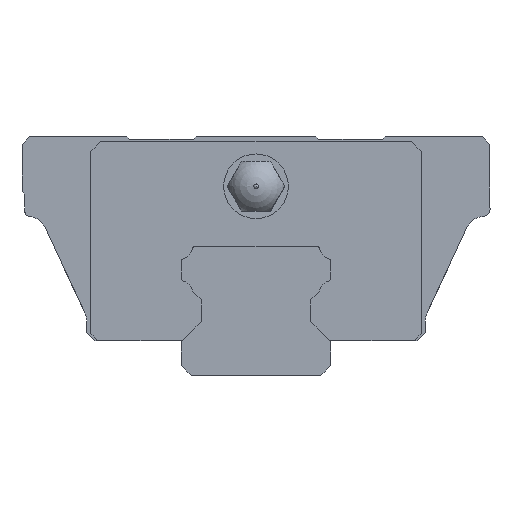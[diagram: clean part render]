
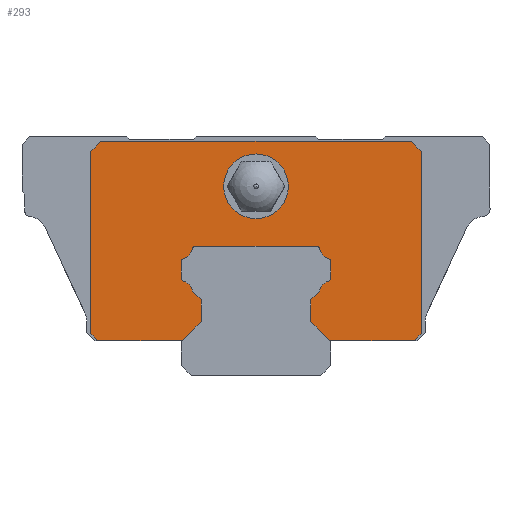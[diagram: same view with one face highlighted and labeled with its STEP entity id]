
A CAD part, front view. The second image highlights one B-rep face of the part: STEP entity #293.
In plain terms, the highlighted planar face has unit normal (0, -1, 0).
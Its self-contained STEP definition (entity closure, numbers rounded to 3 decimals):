
#203=FACE_BOUND('',#708,.T.);
#204=FACE_BOUND('',#709,.T.);
#293=ADVANCED_FACE('',(#203,#204),#464,.T.);
#464=PLANE('',#3262);
#708=EDGE_LOOP('',(#1091,#1092,#1093,#1094,#1095,#1096,#1097,#1098,#1099,#1100,#1101,#1102,#1103,#1104,#1105,#1106,#1107,#1108,#1109,#1110,#1111,#1112,#1113,#1114,#1115,#1116,#1117,#1118));
#709=EDGE_LOOP('',(#1119));
#920=CIRCLE('',#3250,3.25);
#921=CIRCLE('',#3252,1.4);
#922=CIRCLE('',#3253,0.3);
#923=CIRCLE('',#3254,0.3);
#924=CIRCLE('',#3255,1.4);
#925=CIRCLE('',#3256,0.3);
#926=CIRCLE('',#3257,0.3);
#927=CIRCLE('',#3258,1.4);
#928=CIRCLE('',#3259,0.3);
#929=CIRCLE('',#3260,0.3);
#930=CIRCLE('',#3261,1.4);
#1091=ORIENTED_EDGE('',*,*,#2269,.F.);
#1092=ORIENTED_EDGE('',*,*,#2270,.F.);
#1093=ORIENTED_EDGE('',*,*,#2271,.F.);
#1094=ORIENTED_EDGE('',*,*,#2272,.F.);
#1095=ORIENTED_EDGE('',*,*,#2273,.F.);
#1096=ORIENTED_EDGE('',*,*,#2274,.F.);
#1097=ORIENTED_EDGE('',*,*,#2275,.F.);
#1098=ORIENTED_EDGE('',*,*,#2276,.F.);
#1099=ORIENTED_EDGE('',*,*,#2277,.F.);
#1100=ORIENTED_EDGE('',*,*,#2278,.F.);
#1101=ORIENTED_EDGE('',*,*,#2279,.F.);
#1102=ORIENTED_EDGE('',*,*,#2280,.F.);
#1103=ORIENTED_EDGE('',*,*,#2281,.F.);
#1104=ORIENTED_EDGE('',*,*,#2282,.F.);
#1105=ORIENTED_EDGE('',*,*,#2283,.F.);
#1106=ORIENTED_EDGE('',*,*,#2284,.F.);
#1107=ORIENTED_EDGE('',*,*,#2285,.F.);
#1108=ORIENTED_EDGE('',*,*,#2286,.F.);
#1109=ORIENTED_EDGE('',*,*,#2287,.F.);
#1110=ORIENTED_EDGE('',*,*,#2256,.T.);
#1111=ORIENTED_EDGE('',*,*,#2235,.T.);
#1112=ORIENTED_EDGE('',*,*,#2240,.T.);
#1113=ORIENTED_EDGE('',*,*,#2243,.T.);
#1114=ORIENTED_EDGE('',*,*,#2246,.T.);
#1115=ORIENTED_EDGE('',*,*,#2249,.T.);
#1116=ORIENTED_EDGE('',*,*,#2253,.T.);
#1117=ORIENTED_EDGE('',*,*,#2255,.T.);
#1118=ORIENTED_EDGE('',*,*,#2232,.T.);
#1119=ORIENTED_EDGE('',*,*,#2268,.F.);
#1915=VERTEX_POINT('',#4448);
#1926=VERTEX_POINT('',#4469);
#1929=VERTEX_POINT('',#4476);
#1930=VERTEX_POINT('',#4478);
#1933=VERTEX_POINT('',#4486);
#1935=VERTEX_POINT('',#4492);
#1937=VERTEX_POINT('',#4498);
#1939=VERTEX_POINT('',#4504);
#1942=VERTEX_POINT('',#4512);
#1943=VERTEX_POINT('',#4519);
#1954=VERTEX_POINT('',#4543);
#1955=VERTEX_POINT('',#4546);
#1956=VERTEX_POINT('',#4548);
#1957=VERTEX_POINT('',#4550);
#1958=VERTEX_POINT('',#4552);
#1959=VERTEX_POINT('',#4554);
#1960=VERTEX_POINT('',#4556);
#1961=VERTEX_POINT('',#4558);
#1962=VERTEX_POINT('',#4560);
#1963=VERTEX_POINT('',#4562);
#1964=VERTEX_POINT('',#4564);
#1965=VERTEX_POINT('',#4566);
#1966=VERTEX_POINT('',#4568);
#1967=VERTEX_POINT('',#4570);
#1968=VERTEX_POINT('',#4572);
#1969=VERTEX_POINT('',#4574);
#1970=VERTEX_POINT('',#4576);
#1971=VERTEX_POINT('',#4578);
#1972=VERTEX_POINT('',#4580);
#2232=EDGE_CURVE('',#1915,#1926,#2670,.T.);
#2235=EDGE_CURVE('',#1930,#1929,#2673,.T.);
#2240=EDGE_CURVE('',#1929,#1933,#2677,.T.);
#2243=EDGE_CURVE('',#1933,#1935,#2680,.T.);
#2246=EDGE_CURVE('',#1935,#1937,#2683,.T.);
#2249=EDGE_CURVE('',#1937,#1939,#2686,.T.);
#2253=EDGE_CURVE('',#1939,#1942,#2689,.T.);
#2255=EDGE_CURVE('',#1942,#1915,#2691,.T.);
#2256=EDGE_CURVE('',#1943,#1930,#2692,.T.);
#2268=EDGE_CURVE('',#1954,#1954,#920,.T.);
#2269=EDGE_CURVE('',#1955,#1926,#2701,.T.);
#2270=EDGE_CURVE('',#1956,#1955,#2702,.T.);
#2271=EDGE_CURVE('',#1957,#1956,#2703,.T.);
#2272=EDGE_CURVE('',#1958,#1957,#921,.T.);
#2273=EDGE_CURVE('',#1959,#1958,#922,.T.);
#2274=EDGE_CURVE('',#1960,#1959,#2704,.T.);
#2275=EDGE_CURVE('',#1961,#1960,#923,.T.);
#2276=EDGE_CURVE('',#1962,#1961,#924,.T.);
#2277=EDGE_CURVE('',#1963,#1962,#925,.T.);
#2278=EDGE_CURVE('',#1964,#1963,#2705,.T.);
#2279=EDGE_CURVE('',#1965,#1964,#926,.T.);
#2280=EDGE_CURVE('',#1966,#1965,#927,.T.);
#2281=EDGE_CURVE('',#1967,#1966,#928,.T.);
#2282=EDGE_CURVE('',#1968,#1967,#2706,.T.);
#2283=EDGE_CURVE('',#1969,#1968,#929,.T.);
#2284=EDGE_CURVE('',#1970,#1969,#930,.T.);
#2285=EDGE_CURVE('',#1971,#1970,#2707,.T.);
#2286=EDGE_CURVE('',#1972,#1971,#2708,.T.);
#2287=EDGE_CURVE('',#1943,#1972,#2709,.T.);
#2670=LINE('',#4470,#2956);
#2673=LINE('',#4477,#2959);
#2677=LINE('',#4487,#2963);
#2680=LINE('',#4493,#2966);
#2683=LINE('',#4499,#2969);
#2686=LINE('',#4505,#2972);
#2689=LINE('',#4513,#2975);
#2691=LINE('',#4516,#2977);
#2692=LINE('',#4518,#2978);
#2701=LINE('',#4545,#2987);
#2702=LINE('',#4547,#2988);
#2703=LINE('',#4549,#2989);
#2704=LINE('',#4555,#2990);
#2705=LINE('',#4563,#2991);
#2706=LINE('',#4571,#2992);
#2707=LINE('',#4577,#2993);
#2708=LINE('',#4579,#2994);
#2709=LINE('',#4581,#2995);
#2956=VECTOR('',#3557,1.);
#2959=VECTOR('',#3562,1.);
#2963=VECTOR('',#3570,1.);
#2966=VECTOR('',#3575,1.);
#2969=VECTOR('',#3580,1.);
#2972=VECTOR('',#3585,1.);
#2975=VECTOR('',#3592,1.);
#2977=VECTOR('',#3596,1.);
#2978=VECTOR('',#3599,1.);
#2987=VECTOR('',#3620,1.);
#2988=VECTOR('',#3621,1.);
#2989=VECTOR('',#3622,1.);
#2990=VECTOR('',#3627,1.);
#2991=VECTOR('',#3634,1.);
#2992=VECTOR('',#3641,1.);
#2993=VECTOR('',#3646,1.);
#2994=VECTOR('',#3647,1.);
#2995=VECTOR('',#3648,1.);
#3250=AXIS2_PLACEMENT_3D('',#4542,#3616,#3617);
#3252=AXIS2_PLACEMENT_3D('',#4551,#3623,#3624);
#3253=AXIS2_PLACEMENT_3D('',#4553,#3625,#3626);
#3254=AXIS2_PLACEMENT_3D('',#4557,#3628,#3629);
#3255=AXIS2_PLACEMENT_3D('',#4559,#3630,#3631);
#3256=AXIS2_PLACEMENT_3D('',#4561,#3632,#3633);
#3257=AXIS2_PLACEMENT_3D('',#4565,#3635,#3636);
#3258=AXIS2_PLACEMENT_3D('',#4567,#3637,#3638);
#3259=AXIS2_PLACEMENT_3D('',#4569,#3639,#3640);
#3260=AXIS2_PLACEMENT_3D('',#4573,#3642,#3643);
#3261=AXIS2_PLACEMENT_3D('',#4575,#3644,#3645);
#3262=AXIS2_PLACEMENT_3D('',#4582,#3649,#3650);
#3557=DIRECTION('',(1.,0.,0.));
#3562=DIRECTION('',(0.707,0.,0.707));
#3570=DIRECTION('',(0.,0.,1.));
#3575=DIRECTION('',(-0.707,0.,0.707));
#3580=DIRECTION('',(-1.,0.,0.));
#3585=DIRECTION('',(-0.707,0.,-0.707));
#3592=DIRECTION('',(0.,0.,-1.));
#3596=DIRECTION('',(0.707,0.,-0.707));
#3599=DIRECTION('',(1.,0.,0.));
#3616=DIRECTION('',(0.,-1.,0.));
#3617=DIRECTION('',(1.,0.,0.));
#3620=DIRECTION('',(-0.707,0.,-0.707));
#3621=DIRECTION('',(0.,0.,-1.));
#3622=DIRECTION('',(0.707,0.,-0.707));
#3623=DIRECTION('',(0.,1.,0.));
#3624=DIRECTION('',(0.,0.,-1.));
#3625=DIRECTION('',(0.,-1.,0.));
#3626=DIRECTION('',(0.,0.,-1.));
#3627=DIRECTION('',(0.,0.,-1.));
#3628=DIRECTION('',(0.,-1.,0.));
#3629=DIRECTION('',(0.,0.,-1.));
#3630=DIRECTION('',(0.,1.,0.));
#3631=DIRECTION('',(0.,0.,-1.));
#3632=DIRECTION('',(0.,-1.,0.));
#3633=DIRECTION('',(0.,0.,-1.));
#3634=DIRECTION('',(-1.,0.,0.));
#3635=DIRECTION('',(0.,-1.,0.));
#3636=DIRECTION('',(0.,0.,-1.));
#3637=DIRECTION('',(0.,1.,0.));
#3638=DIRECTION('',(0.,0.,-1.));
#3639=DIRECTION('',(0.,-1.,0.));
#3640=DIRECTION('',(0.,0.,-1.));
#3641=DIRECTION('',(0.,0.,1.));
#3642=DIRECTION('',(0.,-1.,0.));
#3643=DIRECTION('',(0.,0.,-1.));
#3644=DIRECTION('',(0.,1.,0.));
#3645=DIRECTION('',(0.,0.,-1.));
#3646=DIRECTION('',(0.707,0.,0.707));
#3647=DIRECTION('',(0.,0.,1.));
#3648=DIRECTION('',(-0.707,0.,0.707));
#3649=DIRECTION('',(0.,-1.,0.));
#3650=DIRECTION('',(0.,0.,-1.));
#4448=CARTESIAN_POINT('',(-15.9,-7.5,3.5));
#4469=CARTESIAN_POINT('',(-7.4,-7.5,3.5));
#4470=CARTESIAN_POINT('',(-15.9,-7.5,3.5));
#4476=CARTESIAN_POINT('',(16.6,-7.5,4.2));
#4477=CARTESIAN_POINT('',(15.9,-7.5,3.5));
#4478=CARTESIAN_POINT('',(15.9,-7.5,3.5));
#4486=CARTESIAN_POINT('',(16.6,-7.5,22.5));
#4487=CARTESIAN_POINT('',(16.6,-7.5,4.2));
#4492=CARTESIAN_POINT('',(15.6,-7.5,23.5));
#4493=CARTESIAN_POINT('',(16.6,-7.5,22.5));
#4498=CARTESIAN_POINT('',(-15.6,-7.5,23.5));
#4499=CARTESIAN_POINT('',(15.6,-7.5,23.5));
#4504=CARTESIAN_POINT('',(-16.6,-7.5,22.5));
#4505=CARTESIAN_POINT('',(-15.6,-7.5,23.5));
#4512=CARTESIAN_POINT('',(-16.6,-7.5,4.2));
#4513=CARTESIAN_POINT('',(-16.6,-7.5,22.5));
#4516=CARTESIAN_POINT('',(-16.6,-7.5,4.2));
#4518=CARTESIAN_POINT('',(-15.9,-7.5,3.5));
#4519=CARTESIAN_POINT('',(7.4,-7.5,3.5));
#4542=CARTESIAN_POINT('',(0.,-7.5,19.));
#4543=CARTESIAN_POINT('',(3.25,-7.5,19.));
#4545=CARTESIAN_POINT('',(4.05,-7.5,14.95));
#4546=CARTESIAN_POINT('',(-5.5,-7.5,5.4));
#4547=CARTESIAN_POINT('',(-5.5,-7.5,19.));
#4548=CARTESIAN_POINT('',(-5.5,-7.5,7.6));
#4549=CARTESIAN_POINT('',(-8.45,-7.5,10.55));
#4550=CARTESIAN_POINT('',(-6.376,-7.5,8.476));
#4551=CARTESIAN_POINT('',(-7.74,-7.5,8.16));
#4552=CARTESIAN_POINT('',(-7.295,-7.5,9.488));
#4553=CARTESIAN_POINT('',(-7.2,-7.5,9.772));
#4554=CARTESIAN_POINT('',(-7.5,-7.5,9.772));
#4555=CARTESIAN_POINT('',(-7.5,-7.5,19.));
#4556=CARTESIAN_POINT('',(-7.5,-7.5,11.428));
#4557=CARTESIAN_POINT('',(-7.2,-7.5,11.428));
#4558=CARTESIAN_POINT('',(-7.295,-7.5,11.712));
#4559=CARTESIAN_POINT('',(-7.74,-7.5,13.04));
#4560=CARTESIAN_POINT('',(-6.368,-7.5,12.76));
#4561=CARTESIAN_POINT('',(-6.074,-7.5,12.7));
#4562=CARTESIAN_POINT('',(-6.074,-7.5,13.));
#4563=CARTESIAN_POINT('',(0.,-7.5,13.));
#4564=CARTESIAN_POINT('',(6.074,-7.5,13.));
#4565=CARTESIAN_POINT('',(6.074,-7.5,12.7));
#4566=CARTESIAN_POINT('',(6.368,-7.5,12.76));
#4567=CARTESIAN_POINT('',(7.74,-7.5,13.04));
#4568=CARTESIAN_POINT('',(7.295,-7.5,11.712));
#4569=CARTESIAN_POINT('',(7.2,-7.5,11.428));
#4570=CARTESIAN_POINT('',(7.5,-7.5,11.428));
#4571=CARTESIAN_POINT('',(7.5,-7.5,19.));
#4572=CARTESIAN_POINT('',(7.5,-7.5,9.772));
#4573=CARTESIAN_POINT('',(7.2,-7.5,9.772));
#4574=CARTESIAN_POINT('',(7.295,-7.5,9.488));
#4575=CARTESIAN_POINT('',(7.74,-7.5,8.16));
#4576=CARTESIAN_POINT('',(6.376,-7.5,8.476));
#4577=CARTESIAN_POINT('',(8.45,-7.5,10.55));
#4578=CARTESIAN_POINT('',(5.5,-7.5,7.6));
#4579=CARTESIAN_POINT('',(5.5,-7.5,19.));
#4580=CARTESIAN_POINT('',(5.5,-7.5,5.4));
#4581=CARTESIAN_POINT('',(-4.05,-7.5,14.95));
#4582=CARTESIAN_POINT('',(0.,-7.5,19.));
